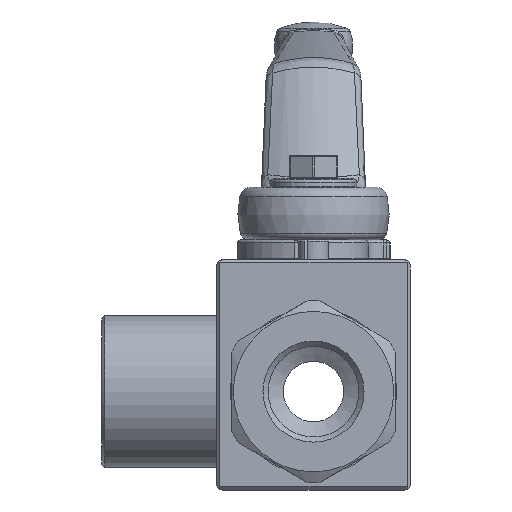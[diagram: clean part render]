
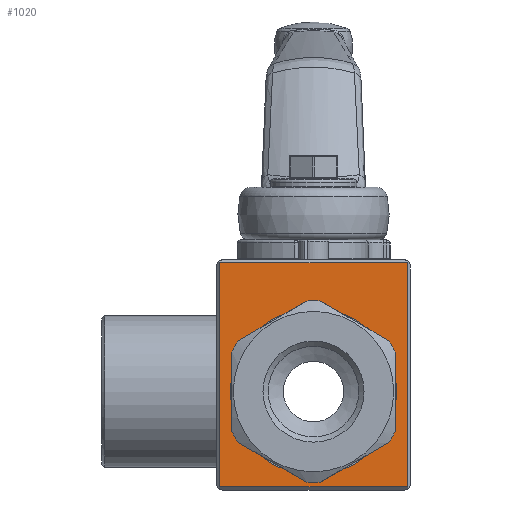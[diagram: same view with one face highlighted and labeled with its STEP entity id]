
A CAD part, front view. The second image highlights one B-rep face of the part: STEP entity #1020.
In plain terms, the highlighted planar face has unit normal (0, -1, 0).
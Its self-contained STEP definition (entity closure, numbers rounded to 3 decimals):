
#1020 = ADVANCED_FACE( '', ( #2086, #2087 ), #2088, .T. );
#2086 = FACE_OUTER_BOUND( '', #4066, .T. );
#2087 = FACE_BOUND( '', #4067, .T. );
#2088 = PLANE( '', #4068 );
#4066 = EDGE_LOOP( '', ( #6771, #6772, #6773, #6774 ) );
#4067 = EDGE_LOOP( '', ( #6775 ) );
#4068 = AXIS2_PLACEMENT_3D( '', #6776, #6777, #6778 );
#6771 = ORIENTED_EDGE( '', *, *, #8418, .T. );
#6772 = ORIENTED_EDGE( '', *, *, #8838, .T. );
#6773 = ORIENTED_EDGE( '', *, *, #8839, .T. );
#6774 = ORIENTED_EDGE( '', *, *, #8467, .T. );
#6775 = ORIENTED_EDGE( '', *, *, #8840, .T. );
#6776 = CARTESIAN_POINT( '', ( -16., -21.6, -16.25 ) );
#6777 = DIRECTION( '', ( 0., -1., 0. ) );
#6778 = DIRECTION( '', ( 0., 0., -1. ) );
#8418 = EDGE_CURVE( '', #9992, #10001, #10003, .T. );
#8467 = EDGE_CURVE( '', #10075, #9992, #10076, .T. );
#8838 = EDGE_CURVE( '', #10001, #10572, #10573, .T. );
#8839 = EDGE_CURVE( '', #10572, #10075, #10574, .T. );
#8840 = EDGE_CURVE( '', #10575, #10575, #10576, .T. );
#9992 = VERTEX_POINT( '', #12726 );
#10001 = VERTEX_POINT( '', #12737 );
#10003 = LINE( '', #12740, #12741 );
#10075 = VERTEX_POINT( '', #12909 );
#10076 = LINE( '', #12910, #12911 );
#10572 = VERTEX_POINT( '', #13799 );
#10573 = LINE( '', #13800, #13801 );
#10574 = LINE( '', #13802, #13803 );
#10575 = VERTEX_POINT( '', #13804 );
#10576 = CIRCLE( '', #13805, 13.75 );
#12726 = CARTESIAN_POINT( '', ( -15.5, -21.6, -15.75 ) );
#12737 = CARTESIAN_POINT( '', ( 15.5, -21.6, -15.75 ) );
#12740 = CARTESIAN_POINT( '', ( 16., -21.6, -15.75 ) );
#12741 = VECTOR( '', #14983, 1000. );
#12909 = CARTESIAN_POINT( '', ( -15.5, -21.6, 21.25 ) );
#12910 = CARTESIAN_POINT( '', ( -15.5, -21.6, -16.25 ) );
#12911 = VECTOR( '', #15058, 1000. );
#13799 = CARTESIAN_POINT( '', ( 15.5, -21.6, 21.25 ) );
#13800 = CARTESIAN_POINT( '', ( 15.5, -21.6, 21.75 ) );
#13801 = VECTOR( '', #15525, 1000. );
#13802 = CARTESIAN_POINT( '', ( -16., -21.6, 21.25 ) );
#13803 = VECTOR( '', #15526, 1000. );
#13804 = CARTESIAN_POINT( '', ( 13.75, -21.6, 0. ) );
#13805 = AXIS2_PLACEMENT_3D( '', #15527, #15528, #15529 );
#14983 = DIRECTION( '', ( 1., 0., 0. ) );
#15058 = DIRECTION( '', ( 0., 0., -1. ) );
#15525 = DIRECTION( '', ( 0., 0., 1. ) );
#15526 = DIRECTION( '', ( -1., 0., 0. ) );
#15527 = CARTESIAN_POINT( '', ( 0., -21.6, 0. ) );
#15528 = DIRECTION( '', ( 0., 1., 0. ) );
#15529 = DIRECTION( '', ( 1., 0., 0. ) );
